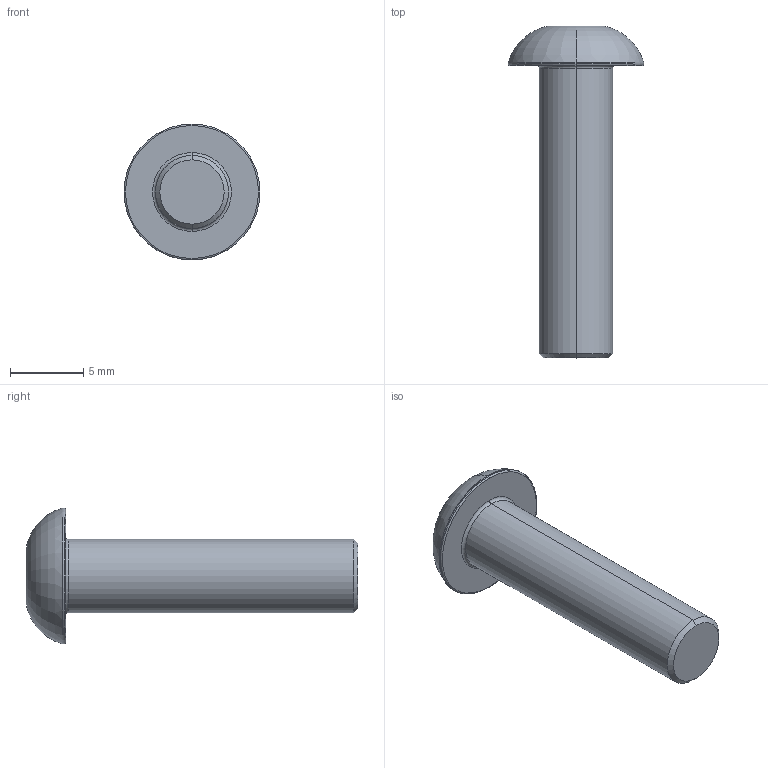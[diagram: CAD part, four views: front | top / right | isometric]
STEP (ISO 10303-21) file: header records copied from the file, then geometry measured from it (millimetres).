
FILE_DESCRIPTION (( 'STEP AP203' ), '1' );
FILE_NAME ('LGDD-304-M5x20.STEP', '2026-08-08T04:51:52', ( '' ), ( '' ), 'SwSTEP 2.0', 'SolidWorks 2020', '' );
FILE_SCHEMA (( 'CONFIG_CONTROL_DESIGN' ));
Length unit declared in the file: millimetre
Products named in the file (1): LGDD-304-M5x20
Bounding box: 9.3 x 22.7 x 9.3 mm (x, y, z)
Volume: 506.5 mm3; surface area: 502.6 mm2
Topology: 1 solids, 1 shells, 31 faces, 59 edges, 32 vertices
Faces by surface type: plane 10, cone 9, torus 8, cylinder 4
Entity records: 864 total; most frequent: CARTESIAN_POINT 154, DIRECTION 149, ORIENTED_EDGE 118, AXIS2_PLACEMENT_3D 65, EDGE_CURVE 59, CIRCLE 33, EDGE_LOOP 33, VERTEX_POINT 32
